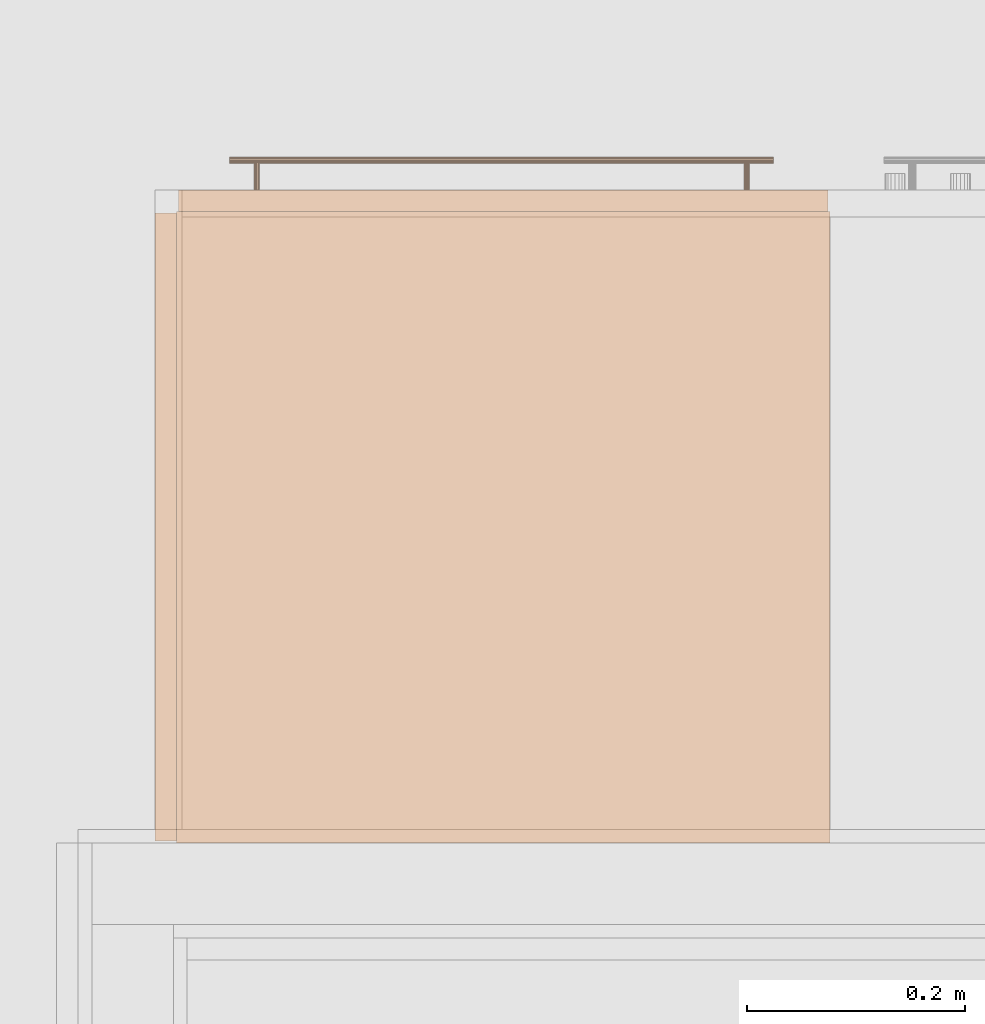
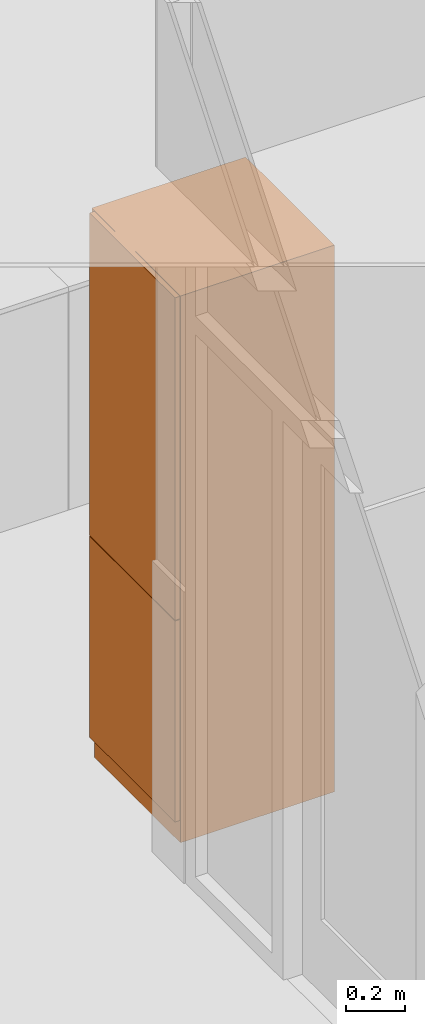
# One storey, part 137 of 167: 1 proxy.
"""IFC2X3 building model written with IfcOpenShell, lengths in millimetres."""

from ifc_helpers import new_model, entity, si_unit, converted_unit, derived_unit, money_unit, direction, frame, origin_with_axes, place, context, subcontext, project, spatial, open_shell, faceted_brep, surface_model, type_object, element, save


model = new_model("IFC2X3")

# Units and contexts
model_context = context("Model", 3, precision=0.01, world=origin_with_axes(), true_north=direction((0.0, 1.0)))
plan_context = context("Plan", 3, precision=0.01, world=origin_with_axes(), true_north=direction((0.0, 1.0)))
body_context = subcontext(model_context, "Body", "Model", "MODEL_VIEW")
ifc_project = project(units=[si_unit("LENGTHUNIT", "METRE", prefix="MILLI"), si_unit("AREAUNIT", "SQUARE_METRE"), si_unit("VOLUMEUNIT", "CUBIC_METRE"), converted_unit("PLANEANGLEUNIT", "DEGREE", entity("IfcPlaneAngleMeasure", 0.0174532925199), si_unit("PLANEANGLEUNIT", "RADIAN"), dimensions=[0, 0, 0, 0, 0, 0, 0]), si_unit("SOLIDANGLEUNIT", "STERADIAN"), money_unit("EUR"), converted_unit("TIMEUNIT", "Year", entity("IfcTimeMeasure", 31556926.0), si_unit("TIMEUNIT", "SECOND"), dimensions=[0, 0, 1, 0, 0, 0, 0]), si_unit("MASSUNIT", "GRAM", prefix="KILO"), si_unit("THERMODYNAMICTEMPERATUREUNIT", "DEGREE_CELSIUS"), si_unit("LUMINOUSINTENSITYUNIT", "LUMEN"), si_unit("ENERGYUNIT", "JOULE", prefix="MEGA"), derived_unit("THERMALCONDUCTANCEUNIT", [(si_unit("POWERUNIT", "WATT"), 1), (si_unit("LENGTHUNIT", "METRE"), -1), (si_unit("THERMODYNAMICTEMPERATUREUNIT", "KELVIN"), -1)]), derived_unit("SPECIFICHEATCAPACITYUNIT", [(si_unit("ENERGYUNIT", "JOULE"), 1), (si_unit("MASSUNIT", "GRAM", prefix="KILO"), -1), (si_unit("THERMODYNAMICTEMPERATUREUNIT", "KELVIN"), -1)]), derived_unit("MASSDENSITYUNIT", [(si_unit("MASSUNIT", "GRAM", prefix="KILO"), 1), (si_unit("VOLUMEUNIT", "CUBIC_METRE"), -1)])], contexts=[model_context, plan_context])

# Site, building, storey
site_placement = place(None, origin_with_axes())
site = spatial("IfcSite", under=ifc_project, at=site_placement, Name="Site", CompositionType="ELEMENT")
building_placement = place(site_placement, origin_with_axes())
building = spatial("IfcBuilding", under=site, at=building_placement, Name="Naam gebouw", CompositionType="ELEMENT")
storey_placement = place(building_placement, origin_with_axes())
storey = spatial("IfcBuildingStorey", under=building, at=storey_placement, Name="Begane grond", CompositionType="ELEMENT", Elevation=0.0)

# Proxy
building_element_proxy_type = type_object("IfcBuildingElementProxyType", Name="Kast hoog 1D 24", PredefinedType="NOTDEFINED")
proxy_placement = place(storey_placement, frame((25405.0, 24566.7322881, 0.0), z_axis=(0.0, 0.0, 1.0), x_axis=(-1.0, 0.0, 0.0)))
element("IfcBuildingElementProxy", 1, at=proxy_placement, inside=storey, type_object=building_element_proxy_type, Name="__Object-x", context=body_context, shape_type="SurfaceModel", body=[
    faceted_brep([(-40.0, 20.0, 910.0), (-40.0, 20.0, 930.0), (-600.0, 20.0, 930.0), (-600.0, 20.0, 910.0), (-40.0, 580.0, 910.0), (-40.0, 580.0, 930.0), (-600.0, 580.0, 930.0), (-600.0, 580.0, 910.0)], [[[0, 1, 2, 3]], [[4, 5, 1, 0]], [[1, 5, 6, 2]], [[3, 2, 6, 7]], [[0, 3, 7, 4]], [[7, 6, 5, 4]]]),
    faceted_brep([(-20.0, 20.0, 0.0), (-20.0, 20.0, 90.0), (-620.0, 20.0, 90.0), (-620.0, 20.0, 0.0), (-20.0, 600.0, 0.0), (-20.0, 600.0, 90.0), (-620.0, 600.0, 90.0), (-620.0, 600.0, 0.0)], [[[0, 1, 2, 3]], [[4, 5, 1, 0]], [[1, 5, 6, 2]], [[3, 2, 6, 7]], [[0, 3, 7, 4]], [[7, 6, 5, 4]]]),
    faceted_brep([(-20.0, 20.0, 2230.0), (-20.0, 20.0, 2250.0), (-40.0, 20.0, 2250.0), (-40.0, 20.0, 2230.0), (-20.0, 600.0, 2230.0), (-20.0, 600.0, 2250.0), (-40.0, 600.0, 2250.0), (-600.0, 600.0, 2250.0), (-620.0, 600.0, 2250.0), (-620.0, 20.0, 2250.0), (-600.0, 20.0, 2250.0), (-600.0, 20.0, 2230.0), (-620.0, 20.0, 2230.0), (-620.0, 600.0, 2230.0), (-600.0, 600.0, 2230.0), (-40.0, 600.0, 2230.0)], [[[0, 1, 2, 3]], [[4, 5, 1, 0]], [[1, 5, 6, 7, 8, 9, 10, 2]], [[3, 2, 10, 11]], [[0, 3, 11, 12, 13, 14, 15, 4]], [[15, 6, 5, 4]], [[14, 7, 6, 15]], [[13, 8, 7, 14]], [[12, 9, 8, 13]], [[11, 10, 9, 12]]]),
    faceted_brep([(-20.0, 20.0, 90.0), (-20.0, 20.0, 110.0), (-40.0, 20.0, 110.0), (-40.0, 20.0, 90.0), (-20.0, 600.0, 90.0), (-20.0, 600.0, 110.0), (-40.0, 600.0, 110.0), (-600.0, 600.0, 110.0), (-620.0, 600.0, 110.0), (-620.0, 20.0, 110.0), (-600.0, 20.0, 110.0), (-600.0, 20.0, 90.0), (-620.0, 20.0, 90.0), (-620.0, 600.0, 90.0), (-600.0, 600.0, 90.0), (-40.0, 600.0, 90.0)], [[[0, 1, 2, 3]], [[4, 5, 1, 0]], [[1, 5, 6, 7, 8, 9, 10, 2]], [[3, 2, 10, 11]], [[0, 3, 11, 12, 13, 14, 15, 4]], [[15, 6, 5, 4]], [[14, 7, 6, 15]], [[13, 8, 7, 14]], [[12, 9, 8, 13]], [[11, 10, 9, 12]]]),
    faceted_brep([(-20.0, 20.0, 110.0), (-20.0, 20.0, 2230.0), (-40.0, 20.0, 2230.0), (-40.0, 20.0, 110.0), (-20.0, 600.0, 110.0), (-20.0, 600.0, 2230.0), (-620.0, 600.0, 2230.0), (-620.0, 20.0, 2230.0), (-600.0, 20.0, 2230.0), (-600.0, 580.0, 2230.0), (-40.0, 580.0, 2230.0), (-40.0, 580.0, 110.0), (-600.0, 580.0, 110.0), (-600.0, 20.0, 110.0), (-620.0, 20.0, 110.0), (-620.0, 600.0, 110.0)], [[[0, 1, 2, 3]], [[4, 5, 1, 0]], [[1, 5, 6, 7, 8, 9, 10, 2]], [[3, 2, 10, 11]], [[0, 3, 11, 12, 13, 14, 15, 4]], [[15, 6, 5, 4]], [[14, 7, 6, 15]], [[13, 8, 7, 14]], [[12, 9, 8, 13]], [[11, 10, 9, 12]]]),
    faceted_brep([(-600.0, 20.0, 353.333333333), (-600.0, 20.0, 373.333333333), (-600.0, 580.0, 373.333333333), (-600.0, 580.0, 353.333333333), (-40.0, 20.0, 353.333333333), (-40.0, 20.0, 373.333333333), (-40.0, 580.0, 373.333333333), (-40.0, 580.0, 353.333333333)], [[[0, 1, 2, 3]], [[4, 5, 1, 0]], [[1, 5, 6, 2]], [[3, 2, 6, 7]], [[0, 3, 7, 4]], [[7, 6, 5, 4]]]),
    faceted_brep([(-600.0, 20.0, 636.666666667), (-600.0, 20.0, 656.666666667), (-600.0, 580.0, 656.666666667), (-600.0, 580.0, 636.666666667), (-40.0, 20.0, 636.666666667), (-40.0, 20.0, 656.666666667), (-40.0, 580.0, 656.666666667), (-40.0, 580.0, 636.666666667)], [[[0, 1, 2, 3]], [[4, 5, 1, 0]], [[1, 5, 6, 2]], [[3, 2, 6, 7]], [[0, 3, 7, 4]], [[7, 6, 5, 4]]]),
    faceted_brep([(-21.5, 20.0, 91.5), (-21.5, 0.0, 91.5), (-618.5, 0.0, 91.5), (-618.5, 20.0, 91.5), (-21.5, 20.0, 918.5), (-21.5, 0.0, 918.5), (-618.5, 0.0, 918.5), (-618.5, 20.0, 918.5)], [[[0, 1, 2, 3]], [[4, 5, 1, 0]], [[1, 5, 6, 2]], [[3, 2, 6, 7]], [[0, 3, 7, 4]], [[7, 6, 5, 4]]]),
    faceted_brep([(-68.5, -28.1480502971, 838.728361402), (-68.5, -27.0, 838.5), (-68.5, -25.8519497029, 838.728361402), (-68.5, -24.8786796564, 839.378679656), (-68.5, -24.2283614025, 840.351949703), (-68.5, -24.0, 841.5), (-68.5, -24.2283614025, 842.648050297), (-68.5, -24.8786796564, 843.621320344), (-68.5, -25.8519497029, 844.271638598), (-68.5, -27.0, 844.5), (-68.5, -28.1480502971, 844.271638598), (-68.5, -29.1213203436, 843.621320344), (-68.5, -29.7716385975, 842.648050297), (-68.5, -30.0, 841.5), (-68.5, -29.7716385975, 840.351949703), (-68.5, -29.1213203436, 839.378679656), (-568.5, -28.1480502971, 838.728361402), (-568.5, -27.0, 838.5), (-568.5, -25.8519497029, 838.728361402), (-568.5, -24.8786796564, 839.378679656), (-568.5, -24.2283614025, 840.351949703), (-568.5, -24.0, 841.5), (-568.5, -24.2283614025, 842.648050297), (-568.5, -24.8786796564, 843.621320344), (-568.5, -25.8519497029, 844.271638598), (-568.5, -27.0, 844.5), (-568.5, -28.1480502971, 844.271638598), (-568.5, -29.1213203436, 843.621320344), (-568.5, -29.7716385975, 842.648050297), (-568.5, -30.0, 841.5), (-568.5, -29.7716385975, 840.351949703), (-568.5, -29.1213203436, 839.378679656)], [[[0, 1, 2, 3, 4, 5, 6, 7, 8, 9, 10, 11, 12, 13, 14, 15]], [[0, 16, 17, 1]], [[1, 17, 18, 2]], [[2, 18, 19, 3]], [[3, 19, 20, 4]], [[4, 20, 21, 5]], [[5, 21, 22, 6]], [[6, 22, 23, 7]], [[7, 23, 24, 8]], [[8, 24, 25, 9]], [[9, 25, 26, 10]], [[10, 26, 27, 11]], [[11, 27, 28, 12]], [[12, 28, 29, 13]], [[13, 29, 30, 14]], [[14, 30, 31, 15]], [[15, 31, 16, 0]], [[16, 31, 30, 29, 28, 27, 26, 25, 24, 23, 22, 21, 20, 19, 18, 17]]]),
    surface_model("IfcShellBasedSurfaceModel", [(-91.1903011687, -24.156637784, 840.543291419), (-91.1903011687, 0.0, 840.543291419), (-91.0, 0.0, 841.5), (-91.0, -24.0, 841.5), (-91.732233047, -24.5761600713, 839.732233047), (-91.732233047, 0.0, 839.732233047), (-92.5432914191, 0.0, 839.190301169), (-93.5, 0.0, 839.0), (-94.4567085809, 0.0, 839.190301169), (-95.267766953, 0.0, 839.732233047), (-95.8096988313, 0.0, 840.543291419), (-96.0, 0.0, 841.5), (-95.8096988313, 0.0, 842.456708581), (-95.267766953, 0.0, 843.267766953), (-94.4567085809, 0.0, 843.809698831), (-93.5, 0.0, 844.0), (-92.5432914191, 0.0, 843.809698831), (-91.732233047, 0.0, 843.267766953), (-91.1903011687, 0.0, 842.456708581), (-91.1903011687, -24.156637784, 842.456708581), (-92.5432914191, -25.0855049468, 839.190301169), (-93.5, -25.3416876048, 839.0), (-94.4567085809, -25.0855049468, 839.190301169), (-95.267766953, -24.5761600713, 839.732233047), (-95.8096988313, -24.156637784, 840.543291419), (-96.0, -24.0, 841.5), (-95.8096988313, -24.156637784, 842.456708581), (-95.267766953, -24.5761600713, 843.267766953), (-94.4567085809, -25.0855049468, 843.809698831), (-93.5, -25.3416876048, 844.0), (-92.5432914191, -25.0855049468, 843.809698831), (-91.732233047, -24.5761600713, 843.267766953)], [open_shell([[[0, 1, 2, 3]], [[4, 5, 1, 0]], [[1, 5, 6, 7, 8, 9, 10, 11, 12, 13, 14, 15, 16, 17, 18, 2]], [[3, 2, 18, 19]], [[20, 6, 5, 4]], [[21, 7, 6, 20]], [[22, 8, 7, 21]], [[23, 9, 8, 22]], [[24, 10, 9, 23]], [[25, 11, 10, 24]], [[26, 12, 11, 25]], [[27, 13, 12, 26]], [[28, 14, 13, 27]], [[29, 15, 14, 28]], [[30, 16, 15, 29]], [[31, 17, 16, 30]], [[19, 18, 17, 31]]])]),
    surface_model("IfcShellBasedSurfaceModel", [(-541.190301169, -24.156637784, 840.543291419), (-541.190301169, 0.0, 840.543291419), (-541.0, 0.0, 841.5), (-541.0, -24.0, 841.5), (-541.732233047, -24.5761600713, 839.732233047), (-541.732233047, 0.0, 839.732233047), (-542.543291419, 0.0, 839.190301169), (-543.5, 0.0, 839.0), (-544.456708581, 0.0, 839.190301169), (-545.267766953, 0.0, 839.732233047), (-545.809698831, 0.0, 840.543291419), (-546.0, 0.0, 841.5), (-545.809698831, 0.0, 842.456708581), (-545.267766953, 0.0, 843.267766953), (-544.456708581, 0.0, 843.809698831), (-543.5, 0.0, 844.0), (-542.543291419, 0.0, 843.809698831), (-541.732233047, 0.0, 843.267766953), (-541.190301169, 0.0, 842.456708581), (-541.190301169, -24.156637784, 842.456708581), (-542.543291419, -25.0855049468, 839.190301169), (-543.5, -25.3416876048, 839.0), (-544.456708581, -25.0855049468, 839.190301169), (-545.267766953, -24.5761600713, 839.732233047), (-545.809698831, -24.156637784, 840.543291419), (-546.0, -24.0, 841.5), (-545.809698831, -24.156637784, 842.456708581), (-545.267766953, -24.5761600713, 843.267766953), (-544.456708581, -25.0855049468, 843.809698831), (-543.5, -25.3416876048, 844.0), (-542.543291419, -25.0855049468, 843.809698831), (-541.732233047, -24.5761600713, 843.267766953)], [open_shell([[[0, 1, 2, 3]], [[4, 5, 1, 0]], [[1, 5, 6, 7, 8, 9, 10, 11, 12, 13, 14, 15, 16, 17, 18, 2]], [[3, 2, 18, 19]], [[20, 6, 5, 4]], [[21, 7, 6, 20]], [[22, 8, 7, 21]], [[23, 9, 8, 22]], [[24, 10, 9, 23]], [[25, 11, 10, 24]], [[26, 12, 11, 25]], [[27, 13, 12, 26]], [[28, 14, 13, 27]], [[29, 15, 14, 28]], [[30, 16, 15, 29]], [[31, 17, 16, 30]], [[19, 18, 17, 31]]])]),
    faceted_brep([(-21.5, 20.0, 921.5), (-21.5, 0.0, 921.5), (-618.5, 0.0, 921.5), (-618.5, 20.0, 921.5), (-21.5, 20.0, 2248.5), (-21.5, 0.0, 2248.5), (-618.5, 0.0, 2248.5), (-618.5, 20.0, 2248.5)], [[[0, 1, 2, 3]], [[4, 5, 1, 0]], [[1, 5, 6, 2]], [[3, 2, 6, 7]], [[0, 3, 7, 4]], [[7, 6, 5, 4]]]),
    faceted_brep([(-68.5, -28.1480502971, 968.728361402), (-68.5, -27.0, 968.5), (-68.5, -25.8519497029, 968.728361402), (-68.5, -24.8786796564, 969.378679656), (-68.5, -24.2283614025, 970.351949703), (-68.5, -24.0, 971.5), (-68.5, -24.2283614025, 972.648050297), (-68.5, -24.8786796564, 973.621320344), (-68.5, -25.8519497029, 974.271638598), (-68.5, -27.0, 974.5), (-68.5, -28.1480502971, 974.271638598), (-68.5, -29.1213203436, 973.621320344), (-68.5, -29.7716385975, 972.648050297), (-68.5, -30.0, 971.5), (-68.5, -29.7716385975, 970.351949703), (-68.5, -29.1213203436, 969.378679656), (-568.5, -28.1480502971, 968.728361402), (-568.5, -27.0, 968.5), (-568.5, -25.8519497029, 968.728361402), (-568.5, -24.8786796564, 969.378679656), (-568.5, -24.2283614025, 970.351949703), (-568.5, -24.0, 971.5), (-568.5, -24.2283614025, 972.648050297), (-568.5, -24.8786796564, 973.621320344), (-568.5, -25.8519497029, 974.271638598), (-568.5, -27.0, 974.5), (-568.5, -28.1480502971, 974.271638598), (-568.5, -29.1213203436, 973.621320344), (-568.5, -29.7716385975, 972.648050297), (-568.5, -30.0, 971.5), (-568.5, -29.7716385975, 970.351949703), (-568.5, -29.1213203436, 969.378679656)], [[[0, 1, 2, 3, 4, 5, 6, 7, 8, 9, 10, 11, 12, 13, 14, 15]], [[0, 16, 17, 1]], [[1, 17, 18, 2]], [[2, 18, 19, 3]], [[3, 19, 20, 4]], [[4, 20, 21, 5]], [[5, 21, 22, 6]], [[6, 22, 23, 7]], [[7, 23, 24, 8]], [[8, 24, 25, 9]], [[9, 25, 26, 10]], [[10, 26, 27, 11]], [[11, 27, 28, 12]], [[12, 28, 29, 13]], [[13, 29, 30, 14]], [[14, 30, 31, 15]], [[15, 31, 16, 0]], [[16, 31, 30, 29, 28, 27, 26, 25, 24, 23, 22, 21, 20, 19, 18, 17]]]),
    surface_model("IfcShellBasedSurfaceModel", [(-91.1903011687, -24.156637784, 970.543291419), (-91.1903011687, 0.0, 970.543291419), (-91.0, 0.0, 971.5), (-91.0, -24.0, 971.5), (-91.732233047, -24.5761600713, 969.732233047), (-91.732233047, 0.0, 969.732233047), (-92.5432914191, 0.0, 969.190301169), (-93.5, 0.0, 969.0), (-94.4567085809, 0.0, 969.190301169), (-95.267766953, 0.0, 969.732233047), (-95.8096988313, 0.0, 970.543291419), (-96.0, 0.0, 971.5), (-95.8096988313, 0.0, 972.456708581), (-95.267766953, 0.0, 973.267766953), (-94.4567085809, 0.0, 973.809698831), (-93.5, 0.0, 974.0), (-92.5432914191, 0.0, 973.809698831), (-91.732233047, 0.0, 973.267766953), (-91.1903011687, 0.0, 972.456708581), (-91.1903011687, -24.156637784, 972.456708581), (-92.5432914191, -25.0855049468, 969.190301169), (-93.5, -25.3416876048, 969.0), (-94.4567085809, -25.0855049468, 969.190301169), (-95.267766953, -24.5761600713, 969.732233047), (-95.8096988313, -24.156637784, 970.543291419), (-96.0, -24.0, 971.5), (-95.8096988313, -24.156637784, 972.456708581), (-95.267766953, -24.5761600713, 973.267766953), (-94.4567085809, -25.0855049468, 973.809698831), (-93.5, -25.3416876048, 974.0), (-92.5432914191, -25.0855049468, 973.809698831), (-91.732233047, -24.5761600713, 973.267766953)], [open_shell([[[0, 1, 2, 3]], [[4, 5, 1, 0]], [[1, 5, 6, 7, 8, 9, 10, 11, 12, 13, 14, 15, 16, 17, 18, 2]], [[3, 2, 18, 19]], [[20, 6, 5, 4]], [[21, 7, 6, 20]], [[22, 8, 7, 21]], [[23, 9, 8, 22]], [[24, 10, 9, 23]], [[25, 11, 10, 24]], [[26, 12, 11, 25]], [[27, 13, 12, 26]], [[28, 14, 13, 27]], [[29, 15, 14, 28]], [[30, 16, 15, 29]], [[31, 17, 16, 30]], [[19, 18, 17, 31]]])]),
    surface_model("IfcShellBasedSurfaceModel", [(-541.190301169, -24.156637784, 970.543291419), (-541.190301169, 0.0, 970.543291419), (-541.0, 0.0, 971.5), (-541.0, -24.0, 971.5), (-541.732233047, -24.5761600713, 969.732233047), (-541.732233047, 0.0, 969.732233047), (-542.543291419, 0.0, 969.190301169), (-543.5, 0.0, 969.0), (-544.456708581, 0.0, 969.190301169), (-545.267766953, 0.0, 969.732233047), (-545.809698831, 0.0, 970.543291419), (-546.0, 0.0, 971.5), (-545.809698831, 0.0, 972.456708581), (-545.267766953, 0.0, 973.267766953), (-544.456708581, 0.0, 973.809698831), (-543.5, 0.0, 974.0), (-542.543291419, 0.0, 973.809698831), (-541.732233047, 0.0, 973.267766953), (-541.190301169, 0.0, 972.456708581), (-541.190301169, -24.156637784, 972.456708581), (-542.543291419, -25.0855049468, 969.190301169), (-543.5, -25.3416876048, 969.0), (-544.456708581, -25.0855049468, 969.190301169), (-545.267766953, -24.5761600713, 969.732233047), (-545.809698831, -24.156637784, 970.543291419), (-546.0, -24.0, 971.5), (-545.809698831, -24.156637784, 972.456708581), (-545.267766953, -24.5761600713, 973.267766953), (-544.456708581, -25.0855049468, 973.809698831), (-543.5, -25.3416876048, 974.0), (-542.543291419, -25.0855049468, 973.809698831), (-541.732233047, -24.5761600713, 973.267766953)], [open_shell([[[0, 1, 2, 3]], [[4, 5, 1, 0]], [[1, 5, 6, 7, 8, 9, 10, 11, 12, 13, 14, 15, 16, 17, 18, 2]], [[3, 2, 18, 19]], [[20, 6, 5, 4]], [[21, 7, 6, 20]], [[22, 8, 7, 21]], [[23, 9, 8, 22]], [[24, 10, 9, 23]], [[25, 11, 10, 24]], [[26, 12, 11, 25]], [[27, 13, 12, 26]], [[28, 14, 13, 27]], [[29, 15, 14, 28]], [[30, 16, 15, 29]], [[31, 17, 16, 30]], [[19, 18, 17, 31]]])]),
    faceted_brep([(-20.0, 598.5, 91.5), (0.0, 598.5, 91.5), (0.0, 21.5, 91.5), (-20.0, 21.5, 91.5), (-20.0, 598.5, 918.5), (0.0, 598.5, 918.5), (0.0, 21.5, 918.5), (-20.0, 21.5, 918.5)], [[[0, 1, 2, 3]], [[4, 5, 1, 0]], [[1, 5, 6, 2]], [[3, 2, 6, 7]], [[0, 3, 7, 4]], [[7, 6, 5, 4]]]),
    faceted_brep([(-20.0, 598.5, 921.5), (0.0, 598.5, 921.5), (0.0, 21.5, 921.5), (-20.0, 21.5, 921.5), (-20.0, 598.5, 2248.5), (0.0, 598.5, 2248.5), (0.0, 21.5, 2248.5), (-20.0, 21.5, 2248.5)], [[[0, 1, 2, 3]], [[4, 5, 1, 0]], [[1, 5, 6, 2]], [[3, 2, 6, 7]], [[0, 3, 7, 4]], [[7, 6, 5, 4]]]),
])

save(model, "model.ifc")
